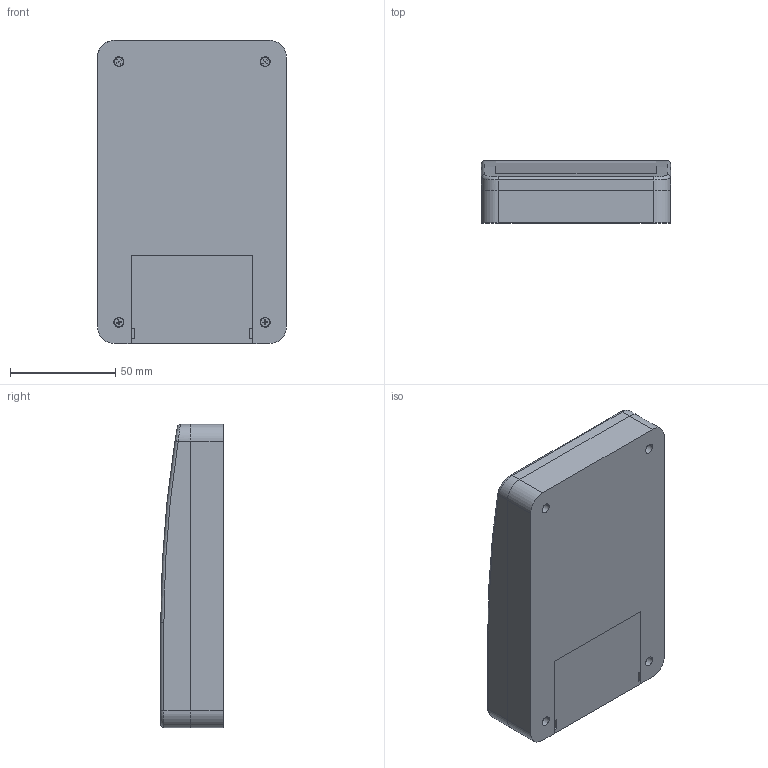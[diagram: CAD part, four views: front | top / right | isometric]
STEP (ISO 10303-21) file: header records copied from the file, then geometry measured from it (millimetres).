
FILE_DESCRIPTION (( 'STEP AP214' ), '1' );
FILE_NAME ('Conjunt PP82.STEP', '2018-01-23T11:17:22', ( 'aaa' ), ( '' ), 'SwSTEP 2.0', 'SolidWorks 2013', '' );
FILE_SCHEMA (( 'AUTOMOTIVE_DESIGN' ));
Length unit declared in the file: millimetre
Products named in the file (7): Cargol 2,9x6,5 PP82; Cargol 2,2x13 PP82; Conector electric PP82; Tapeta PP82; Tapa PP82; Cos PP82; Conjunt PP82
Assembly tree (15 placements, depth 2):
  Conjunt PP82
    Cos PP82
    Tapa PP82
    Tapeta PP82
    Conector electric PP82  x4
    Cargol 2,2x13 PP82  x4
    Cargol 2,9x6,5 PP82  x4
Bounding box: 89.8 x 29.7 x 144 mm (x, y, z)
Volume: 114323.2 mm3; surface area: 93620.5 mm2
Topology: 15 solids, 15 shells, 1169 faces, 2794 edges, 1674 vertices
Faces by surface type: plane 498, cone 496, cylinder 157, torus 12, sphere 4, bspline 2
Entity records: 19238 total; most frequent: CARTESIAN_POINT 3553, DIRECTION 3200, ORIENTED_EDGE 3184, EDGE_CURVE 1592, LINE 1204, VECTOR 1204, VERTEX_POINT 1008, AXIS2_PLACEMENT_3D 998
